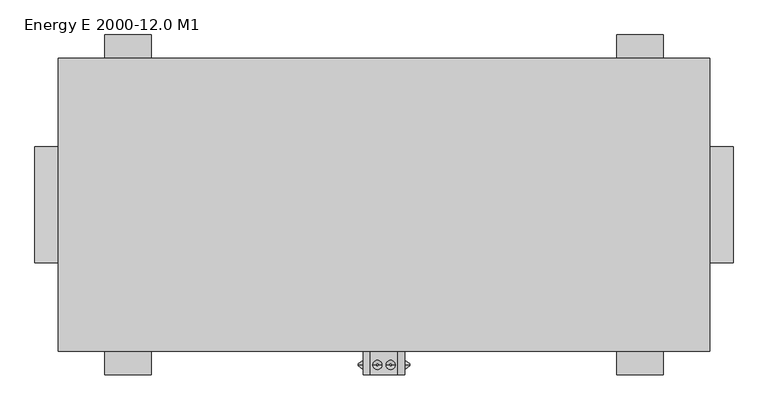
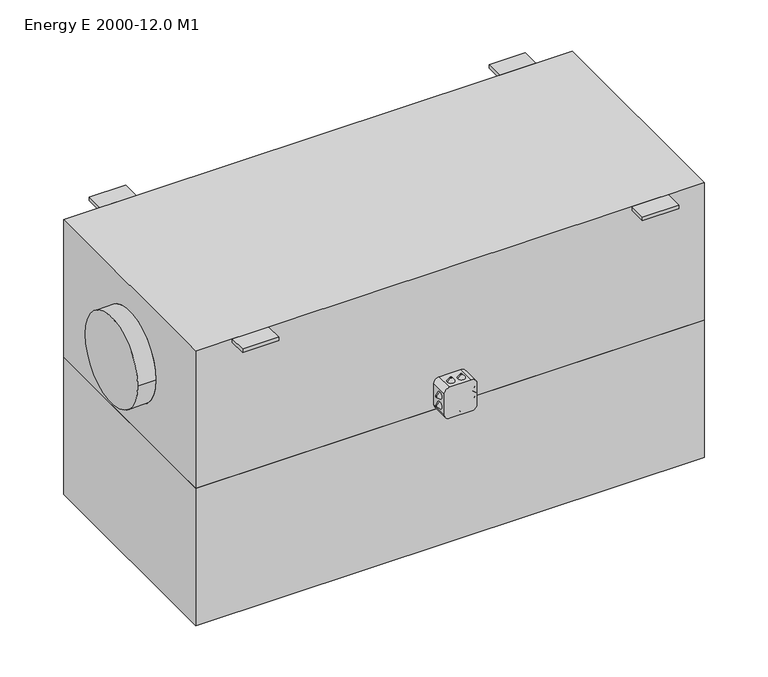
"""IFC4 building model written with IfcOpenShell, lengths in millimetres: proxy geometry, ADSK_КПВУ_ENERGY E_круглая : Energy E 2000-12.0 M1."""

from ifc_helpers import new_model, si_unit, point, frame, frame_2d, origin, place, context, project, spatial, polyline, circle_curve, trimmed, segment, composite_curve, outline, extrude, source, transform, mapped, element, save
from ifc_brep_helpers import plane_surface, cylinder_surface, revolved_surface, advanced_brep


def energy_e_2000_12_0_m1_ab2c2ec1(model_context):
    return source(origin(), model_context, "Body", "SolidModel", [
        advanced_brep(
        [(211.0, -343.9311792, -171.7092609), (211.0, -343.9311792, -167.7092609), (221.0, -343.9311792, -179.7092609), (221.0, -343.9311792, -159.7092609)],
        [
            (0, 1, circle_curve(frame((211.0, -343.9311792, -169.7092609), z_axis=(-1.0, 0.0, 0.0), x_axis=(0.0, 0.0, -1.0)), 2.0)),
            (1, 0, circle_curve(frame((211.0, -343.9311792, -169.7092609), z_axis=(-1.0, 0.0, 0.0), x_axis=(0.0, 0.0, 1.0)), 2.0)),
            (2, 3, circle_curve(frame((221.0, -343.9311792, -169.7092609), z_axis=(1.0, 0.0, 0.0), x_axis=(0.0, 0.0, 1.0)), 10.0)),
            (3, 2, circle_curve(frame((221.0, -343.9311792, -169.7092609), z_axis=(1.0, 0.0, 0.0), x_axis=(0.0, 0.0, -1.0)), 10.0)),
            (2, 0),
            (1, 3),
        ],
        [
            plane_surface(frame((211.0, -343.9311792, -169.7092609), z_axis=(-1.0, 0.0, 0.0), x_axis=(0.0, -1.0, 0.0))),
            plane_surface(frame((221.0, -343.9311792, -169.7092609), z_axis=(1.0, 0.0, 0.0), x_axis=(0.0, -1.0, 0.0))),
            revolved_surface(polyline([(211.0, -343.9311792, -167.7092609), (221.0, -343.9311792, -159.7092609)]), (208.5, -343.9311792, -169.7092609), (1.0, 0.0, 0.0)),
            revolved_surface(polyline([(211.0, -343.9311792, -171.7092609), (221.0, -343.9311792, -179.7092609)]), (208.5, -343.9311792, -169.7092609), (1.0, 0.0, 0.0)),
        ],
        [
            (0, [[1, 2]]),
            (1, [[3, 4]]),
            (2, [[-3, 5, -2, 6]]),
            (3, [[-4, -6, -1, -5]]),
        ],
    ),
        advanced_brep(
        [(211.0, -343.9311792, -139.0531164), (211.0, -343.9311792, -143.0531164), (221.0, -343.9311792, -131.0531164), (221.0, -343.9311792, -151.0531164)],
        [
            (0, 1, circle_curve(frame((211.0, -343.9311792, -141.0531164), z_axis=(-1.0, 0.0, 0.0), x_axis=(0.0, 0.0, 1.0)), 2.0)),
            (1, 0, circle_curve(frame((211.0, -343.9311792, -141.0531164), z_axis=(-1.0, 0.0, 0.0), x_axis=(0.0, 0.0, -1.0)), 2.0)),
            (2, 3, circle_curve(frame((221.0, -343.9311792, -141.0531164), z_axis=(1.0, 0.0, 0.0), x_axis=(0.0, 0.0, -1.0)), 10.0)),
            (3, 2, circle_curve(frame((221.0, -343.9311792, -141.0531164), z_axis=(1.0, 0.0, 0.0), x_axis=(0.0, 0.0, 1.0)), 10.0)),
            (3, 1),
            (0, 2),
        ],
        [
            plane_surface(frame((211.0, -343.9311792, -141.0531164), z_axis=(-1.0, 0.0, 0.0), x_axis=(0.0, 1.0, 0.0))),
            plane_surface(frame((221.0, -343.9311792, -141.0531164), z_axis=(1.0, 0.0, 0.0), x_axis=(0.0, 1.0, 0.0))),
            revolved_surface(polyline([(211.0, -343.9311792, -139.0531164), (221.0, -343.9311792, -131.0531164)]), (208.5, -343.9311792, -141.0531164), (1.0, 0.0, 0.0)),
            revolved_surface(polyline([(211.0, -343.9311792, -143.0531164), (221.0, -343.9311792, -151.0531164)]), (208.5, -343.9311792, -141.0531164), (1.0, 0.0, 0.0)),
        ],
        [
            (0, [[1, 2]]),
            (1, [[3, 4]]),
            (2, [[-4, 5, -1, 6]]),
            (3, [[-3, -6, -2, -5]]),
        ],
    ),
        advanced_brep(
        [(321.0, -343.9311792, -171.7092609), (321.0, -343.9311792, -167.7092609), (311.0, -343.9311792, -179.7092609), (311.0, -343.9311792, -159.7092609)],
        [
            (0, 1, circle_curve(frame((321.0, -343.9311792, -169.7092609), z_axis=(1.0, 0.0, 0.0), x_axis=(0.0, 0.0, -1.0)), 2.0)),
            (1, 0, circle_curve(frame((321.0, -343.9311792, -169.7092609), z_axis=(1.0, 0.0, 0.0), x_axis=(0.0, 0.0, 1.0)), 2.0)),
            (2, 3, circle_curve(frame((311.0, -343.9311792, -169.7092609), z_axis=(-1.0, 0.0, 0.0), x_axis=(0.0, 0.0, 1.0)), 10.0)),
            (3, 2, circle_curve(frame((311.0, -343.9311792, -169.7092609), z_axis=(-1.0, 0.0, 0.0), x_axis=(0.0, 0.0, -1.0)), 10.0)),
            (3, 1),
            (0, 2),
        ],
        [
            plane_surface(frame((321.0, -343.9311792, -169.7092609), z_axis=(1.0, 0.0, 0.0), x_axis=(0.0, 1.0, 0.0))),
            plane_surface(frame((311.0, -343.9311792, -169.7092609), z_axis=(-1.0, 0.0, 0.0), x_axis=(0.0, 1.0, 0.0))),
            revolved_surface(polyline([(321.0, -343.9311792, -171.7092609), (311.0, -343.9311792, -179.7092609)]), (323.5, -343.9311792, -169.7092609), (-1.0, 0.0, 0.0)),
            revolved_surface(polyline([(321.0, -343.9311792, -167.7092609), (311.0, -343.9311792, -159.7092609)]), (323.5, -343.9311792, -169.7092609), (-1.0, 0.0, 0.0)),
        ],
        [
            (0, [[1, 2]]),
            (1, [[3, 4]]),
            (2, [[-4, 5, -1, 6]]),
            (3, [[-3, -6, -2, -5]]),
        ],
    ),
        advanced_brep(
        [(321.0, -343.9311792, -139.0531164), (321.0, -343.9311792, -143.0531164), (311.0, -343.9311792, -131.0531164), (311.0, -343.9311792, -151.0531164)],
        [
            (0, 1, circle_curve(frame((321.0, -343.9311792, -141.0531164), z_axis=(1.0, 0.0, 0.0), x_axis=(0.0, 0.0, 1.0)), 2.0)),
            (1, 0, circle_curve(frame((321.0, -343.9311792, -141.0531164), z_axis=(1.0, 0.0, 0.0), x_axis=(0.0, 0.0, -1.0)), 2.0)),
            (2, 3, circle_curve(frame((311.0, -343.9311792, -141.0531164), z_axis=(-1.0, 0.0, 0.0), x_axis=(0.0, 0.0, -1.0)), 10.0)),
            (3, 2, circle_curve(frame((311.0, -343.9311792, -141.0531164), z_axis=(-1.0, 0.0, 0.0), x_axis=(0.0, 0.0, 1.0)), 10.0)),
            (2, 0),
            (1, 3),
        ],
        [
            plane_surface(frame((321.0, -343.9311792, -141.0531164), z_axis=(1.0, 0.0, 0.0), x_axis=(0.0, -1.0, 0.0))),
            plane_surface(frame((311.0, -343.9311792, -141.0531164), z_axis=(-1.0, 0.0, 0.0), x_axis=(0.0, -1.0, 0.0))),
            revolved_surface(polyline([(321.0, -343.9311792, -143.0531164), (311.0, -343.9311792, -151.0531164)]), (323.5, -343.9311792, -141.0531164), (-1.0, 0.0, 0.0)),
            revolved_surface(polyline([(321.0, -343.9311792, -139.0531164), (311.0, -343.9311792, -131.0531164)]), (323.5, -343.9311792, -141.0531164), (-1.0, 0.0, 0.0)),
        ],
        [
            (0, [[1, 2]]),
            (1, [[3, 4]]),
            (2, [[-3, 5, -2, 6]]),
            (3, [[-4, -6, -1, -5]]),
        ],
    ),
        advanced_brep(
        [(249.6719278, -343.9311792, -210.0), (253.6719278, -343.9311792, -210.0), (241.6719278, -343.9311792, -200.0), (261.6719278, -343.9311792, -200.0)],
        [
            (0, 1, circle_curve(frame((251.6719278, -343.9311792, -210.0), z_axis=(0.0, 0.0, -1.0), x_axis=(-1.0, 0.0, 0.0)), 2.0)),
            (1, 0, circle_curve(frame((251.6719278, -343.9311792, -210.0), z_axis=(0.0, 0.0, -1.0), x_axis=(1.0, 0.0, 0.0)), 2.0)),
            (2, 3, circle_curve(frame((251.6719278, -343.9311792, -200.0), z_axis=(0.0, 0.0, 1.0), x_axis=(1.0, 0.0, 0.0)), 10.0)),
            (3, 2, circle_curve(frame((251.6719278, -343.9311792, -200.0), z_axis=(0.0, 0.0, 1.0), x_axis=(-1.0, 0.0, 0.0)), 10.0)),
            (3, 1),
            (0, 2),
        ],
        [
            plane_surface(frame((251.6719278, -343.9311792, -210.0), z_axis=(0.0, 0.0, -1.0), x_axis=(0.0, 1.0, 0.0))),
            plane_surface(frame((251.6719278, -343.9311792, -200.0), z_axis=(0.0, 0.0, 1.0), x_axis=(0.0, 1.0, 0.0))),
            revolved_surface(polyline([(249.6719278, -343.9311792, -210.0), (241.6719278, -343.9311792, -200.0)]), (251.6719278, -343.9311792, -212.5), (0.0, 0.0, 1.0)),
            revolved_surface(polyline([(253.6719278, -343.9311792, -210.0), (261.6719278, -343.9311792, -200.0)]), (251.6719278, -343.9311792, -212.5), (0.0, 0.0, 1.0)),
        ],
        [
            (0, [[1, 2]]),
            (1, [[3, 4]]),
            (2, [[-4, 5, -1, 6]]),
            (3, [[-3, -6, -2, -5]]),
        ],
    ),
        advanced_brep(
        [(282.3280722, -343.9311792, -210.0), (278.3280722, -343.9311792, -210.0), (290.3280722, -343.9311792, -200.0), (270.3280722, -343.9311792, -200.0)],
        [
            (0, 1, circle_curve(frame((280.3280722, -343.9311792, -210.0), z_axis=(0.0, 0.0, -1.0), x_axis=(1.0, 0.0, 0.0)), 2.0)),
            (1, 0, circle_curve(frame((280.3280722, -343.9311792, -210.0), z_axis=(0.0, 0.0, -1.0), x_axis=(-1.0, 0.0, 0.0)), 2.0)),
            (2, 3, circle_curve(frame((280.3280722, -343.9311792, -200.0), z_axis=(0.0, 0.0, 1.0), x_axis=(-1.0, 0.0, 0.0)), 10.0)),
            (3, 2, circle_curve(frame((280.3280722, -343.9311792, -200.0), z_axis=(0.0, 0.0, 1.0), x_axis=(1.0, 0.0, 0.0)), 10.0)),
            (2, 0),
            (1, 3),
        ],
        [
            plane_surface(frame((280.3280722, -343.9311792, -210.0), z_axis=(0.0, 0.0, -1.0), x_axis=(0.0, -1.0, 0.0))),
            plane_surface(frame((280.3280722, -343.9311792, -200.0), z_axis=(0.0, 0.0, 1.0), x_axis=(0.0, -1.0, 0.0))),
            revolved_surface(polyline([(278.3280722, -343.9311792, -210.0), (270.3280722, -343.9311792, -200.0)]), (280.3280722, -343.9311792, -212.5), (0.0, 0.0, 1.0)),
            revolved_surface(polyline([(282.3280722, -343.9311792, -210.0), (290.3280722, -343.9311792, -200.0)]), (280.3280722, -343.9311792, -212.5), (0.0, 0.0, 1.0)),
        ],
        [
            (0, [[1, 2]]),
            (1, [[3, 4]]),
            (2, [[-3, 5, -2, 6]]),
            (3, [[-4, -6, -1, -5]]),
        ],
    ),
        advanced_brep(
        [(249.6719278, -343.9311792, -100.0), (253.6719278, -343.9311792, -100.0), (241.6719278, -343.9311792, -110.0), (261.6719278, -343.9311792, -110.0)],
        [
            (0, 1, circle_curve(frame((251.6719278, -343.9311792, -100.0), z_axis=(0.0, 0.0, 1.0), x_axis=(-1.0, 0.0, 0.0)), 2.0)),
            (1, 0, circle_curve(frame((251.6719278, -343.9311792, -100.0), z_axis=(0.0, 0.0, 1.0), x_axis=(1.0, 0.0, 0.0)), 2.0)),
            (2, 3, circle_curve(frame((251.6719278, -343.9311792, -110.0), z_axis=(0.0, 0.0, -1.0), x_axis=(1.0, 0.0, 0.0)), 10.0)),
            (3, 2, circle_curve(frame((251.6719278, -343.9311792, -110.0), z_axis=(0.0, 0.0, -1.0), x_axis=(-1.0, 0.0, 0.0)), 10.0)),
            (2, 0),
            (1, 3),
        ],
        [
            plane_surface(frame((251.6719278, -343.9311792, -100.0), z_axis=(0.0, 0.0, 1.0), x_axis=(0.0, -1.0, 0.0))),
            plane_surface(frame((251.6719278, -343.9311792, -110.0), z_axis=(0.0, 0.0, -1.0), x_axis=(0.0, -1.0, 0.0))),
            revolved_surface(polyline([(253.6719278, -343.9311792, -100.0), (261.6719278, -343.9311792, -110.0)]), (251.6719278, -343.9311792, -97.5), (0.0, 0.0, -1.0)),
            revolved_surface(polyline([(249.6719278, -343.9311792, -100.0), (241.6719278, -343.9311792, -110.0)]), (251.6719278, -343.9311792, -97.5), (0.0, 0.0, -1.0)),
        ],
        [
            (0, [[1, 2]]),
            (1, [[3, 4]]),
            (2, [[-3, 5, -2, 6]]),
            (3, [[-4, -6, -1, -5]]),
        ],
    ),
        advanced_brep(
        [(282.3280722, -343.9311792, -100.0), (278.3280722, -343.9311792, -100.0), (290.3280722, -343.9311792, -110.0), (270.3280722, -343.9311792, -110.0)],
        [
            (0, 1, circle_curve(frame((280.3280722, -343.9311792, -100.0), z_axis=(0.0, 0.0, 1.0), x_axis=(1.0, 0.0, 0.0)), 2.0)),
            (1, 0, circle_curve(frame((280.3280722, -343.9311792, -100.0), z_axis=(0.0, 0.0, 1.0), x_axis=(-1.0, 0.0, 0.0)), 2.0)),
            (2, 3, circle_curve(frame((280.3280722, -343.9311792, -110.0), z_axis=(0.0, 0.0, -1.0), x_axis=(-1.0, 0.0, 0.0)), 10.0)),
            (3, 2, circle_curve(frame((280.3280722, -343.9311792, -110.0), z_axis=(0.0, 0.0, -1.0), x_axis=(1.0, 0.0, 0.0)), 10.0)),
            (3, 1),
            (0, 2),
        ],
        [
            plane_surface(frame((280.3280722, -343.9311792, -100.0), z_axis=(0.0, 0.0, 1.0), x_axis=(0.0, 1.0, 0.0))),
            plane_surface(frame((280.3280722, -343.9311792, -110.0), z_axis=(0.0, 0.0, -1.0), x_axis=(0.0, 1.0, 0.0))),
            revolved_surface(polyline([(282.3280722, -343.9311792, -100.0), (290.3280722, -343.9311792, -110.0)]), (280.3280722, -343.9311792, -97.5), (0.0, 0.0, -1.0)),
            revolved_surface(polyline([(278.3280722, -343.9311792, -100.0), (270.3280722, -343.9311792, -110.0)]), (280.3280722, -343.9311792, -97.5), (0.0, 0.0, -1.0)),
        ],
        [
            (0, [[1, 2]]),
            (1, [[3, 4]]),
            (2, [[-4, 5, -1, 6]]),
            (3, [[-3, -6, -2, -5]]),
        ],
    ),
        extrude(outline(composite_curve([segment(polyline([(-200.0, 236.0), (-200.0, 296.0)]), True, "CONTINUOUS"), segment(trimmed(circle_curve(frame_2d((-185.0, 296.0)), 15.0), [point((-200.0, 296.0))], [point((-185.0, 311.0))], False, "CARTESIAN"), True, "CONTINUOUS"), segment(polyline([(-185.0, 311.0), (-125.0, 311.0)]), True, "CONTINUOUS"), segment(trimmed(circle_curve(frame_2d((-125.0, 296.0)), 15.0), [point((-125.0, 311.0))], [point((-110.0, 296.0))], False, "CARTESIAN"), True, "CONTINUOUS"), segment(polyline([(-110.0, 296.0), (-110.0, 236.0)]), True, "CONTINUOUS"), segment(trimmed(circle_curve(frame_2d((-125.0, 236.0)), 15.0), [point((-110.0, 236.0))], [point((-125.0, 221.0))], False, "CARTESIAN"), True, "CONTINUOUS"), segment(polyline([(-125.0, 221.0), (-185.0, 221.0)]), True, "CONTINUOUS"), segment(trimmed(circle_curve(frame_2d((-185.0, 236.0)), 15.0), [point((-185.0, 221.0))], [point((-200.0, 236.0))], False, "CARTESIAN"), True, "CONTINUOUS")], self_intersect=False)), frame((0.0, -365.0, 0.0), z_axis=(0.0, 1.0, 0.0), x_axis=(0.0, 0.0, 1.0)), (0.0, 0.0, 1.0), 50.0),
        advanced_brep(
        [(966.0, -315.0, 200.0), (966.0, -315.0, -200.0), (966.0, 315.0, -200.0), (966.0, 315.0, 200.0), (966.0, 125.0, 0.0), (966.0, -125.0, 0.0), (-434.0, -315.0, 200.0), (-434.0, 315.0, 200.0), (-434.0, 315.0, -200.0), (-434.0, -315.0, -200.0), (-434.0, 125.0, 0.0), (-434.0, -125.0, 0.0), (-484.0, -125.0, 0.0), (-484.0, 125.0, 0.0), (1016.0, -125.0, 0.0), (1016.0, 125.0, 0.0)],
        [
            (0, 1),
            (1, 2),
            (2, 3),
            (3, 0),
            (4, 5, circle_curve(frame((966.0, 0.0, 0.0), z_axis=(-1.0, 0.0, 0.0), x_axis=(0.0, 1.0, 0.0)), 125.0)),
            (5, 4, circle_curve(frame((966.0, 0.0, 0.0), z_axis=(-1.0, 0.0, 0.0), x_axis=(0.0, 1.0, 0.0)), 125.0)),
            (6, 7),
            (7, 8),
            (8, 9),
            (9, 6),
            (10, 11, circle_curve(frame((-434.0, 0.0, 0.0), z_axis=(1.0, 0.0, 0.0), x_axis=(0.0, 1.0, 0.0)), 125.0)),
            (11, 10, circle_curve(frame((-434.0, 0.0, 0.0), z_axis=(1.0, 0.0, 0.0), x_axis=(0.0, 1.0, 0.0)), 125.0)),
            (12, 13, circle_curve(frame((-484.0, 0.0, 0.0), z_axis=(-1.0, 0.0, 0.0), x_axis=(0.0, 1.0, 0.0)), 125.0)),
            (13, 12, circle_curve(frame((-484.0, 0.0, 0.0), z_axis=(-1.0, 0.0, 0.0), x_axis=(0.0, 1.0, 0.0)), 125.0)),
            (0, 6),
            (9, 1),
            (8, 2),
            (7, 3),
            (12, 11),
            (10, 13),
            (14, 15, circle_curve(frame((1016.0, 0.0, 0.0), z_axis=(1.0, 0.0, 0.0), x_axis=(0.0, 1.0, 0.0)), 125.0)),
            (15, 14, circle_curve(frame((1016.0, 0.0, 0.0), z_axis=(1.0, 0.0, 0.0), x_axis=(0.0, 1.0, 0.0)), 125.0)),
            (14, 5),
            (4, 15),
        ],
        [
            plane_surface(frame((966.0, -315.0, 200.0), z_axis=(1.0, 0.0, 0.0), x_axis=(0.0, 0.0, -1.0))),
            plane_surface(frame((-434.0, -315.0, 200.0), z_axis=(-1.0, 0.0, 0.0), x_axis=(0.0, 0.0, 1.0))),
            plane_surface(frame((-484.0, 125.0, 0.0), z_axis=(-1.0, 0.0, 0.0), x_axis=(0.0, 0.0, -1.0))),
            plane_surface(frame((966.0, -315.0, 200.0), z_axis=(0.0, -1.0, 0.0), x_axis=(-1.0, 0.0, 0.0))),
            plane_surface(frame((966.0, -315.0, -200.0), z_axis=(0.0, 0.0, -1.0), x_axis=(-1.0, 0.0, 0.0))),
            plane_surface(frame((966.0, 315.0, -200.0), z_axis=(0.0, 1.0, 0.0), x_axis=(-1.0, 0.0, 0.0))),
            plane_surface(frame((966.0, 315.0, 200.0), z_axis=(0.0, 0.0, 1.0), x_axis=(-1.0, 0.0, 0.0))),
            cylinder_surface(frame((-484.0, 0.0, 0.0), z_axis=(1.0, 0.0, 0.0), x_axis=(0.0, 1.0, 0.0)), 125.0),
            plane_surface(frame((1016.0, 125.0, 0.0), z_axis=(1.0, 0.0, 0.0), x_axis=(0.0, 0.0, 1.0))),
            cylinder_surface(frame((966.0, 0.0, 0.0), z_axis=(1.0, 0.0, 0.0), x_axis=(0.0, 1.0, 0.0)), 125.0),
        ],
        [
            (0, [[1, 2, 3, 4], [5, 6]]),
            (1, [[7, 8, 9, 10], [11, 12]]),
            (2, [[13, 14]]),
            (3, [[-1, 15, -10, 16]]),
            (4, [[-2, -16, -9, 17]]),
            (5, [[-3, -17, -8, 18]]),
            (6, [[-4, -18, -7, -15]]),
            (7, [[-13, 19, -11, 20]]),
            (7, [[-14, -20, -12, -19]]),
            (8, [[21, 22]]),
            (9, [[-21, 23, -5, 24]]),
            (9, [[-22, -24, -6, -23]]),
        ],
    ),
        extrude(outline(polyline([(-234.0, 365.0), (-234.0, 315.0), (-334.0, 315.0), (-334.0, 365.0), (-234.0, 365.0)])), frame((0.0, 0.0, 190.0), z_axis=(0.0, 0.0, 1.0), x_axis=(1.0, 0.0, 0.0)), (0.0, 0.0, 1.0), 10.0),
        extrude(outline(polyline([(766.0, 365.0), (866.0, 365.0), (866.0, 315.0), (766.0, 315.0), (766.0, 365.0)])), frame((0.0, 0.0, 190.0), z_axis=(0.0, 0.0, 1.0), x_axis=(1.0, 0.0, 0.0)), (0.0, 0.0, 1.0), 10.0),
        extrude(outline(polyline([(-234.0, -365.0), (-334.0, -365.0), (-334.0, -315.0), (-234.0, -315.0), (-234.0, -365.0)])), frame((0.0, 0.0, 190.0), z_axis=(0.0, 0.0, 1.0), x_axis=(1.0, 0.0, 0.0)), (0.0, 0.0, 1.0), 10.0),
        extrude(outline(polyline([(766.0, -365.0), (766.0, -315.0), (866.0, -315.0), (866.0, -365.0), (766.0, -365.0)])), frame((0.0, 0.0, 190.0), z_axis=(0.0, 0.0, 1.0), x_axis=(1.0, 0.0, 0.0)), (0.0, 0.0, 1.0), 10.0),
        extrude(outline(polyline([(966.0, 315.0), (966.0, -315.0), (-434.0, -315.0), (-434.0, 315.0), (966.0, 315.0)])), frame((0.0, 0.0, -600.0), z_axis=(0.0, 0.0, 1.0), x_axis=(1.0, 0.0, 0.0)), (0.0, 0.0, 1.0), 400.0),
    ])


if __name__ == "__main__":
    model = new_model("IFC4")
    model_context = context("Model", 3, world=origin())
    ifc_project = project(units=[si_unit("LENGTHUNIT", "METRE", prefix="MILLI")], contexts=[model_context])
    site = spatial("IfcSite", under=ifc_project)
    building = spatial("IfcBuilding", under=site)
    placement = place(None, origin())
    energy_e_2000_12_0_m1_shape = energy_e_2000_12_0_m1_ab2c2ec1(model_context)
    element("IfcBuildingElementProxy", 1, Name="ADSK_КПВУ_ENERGY E_круглая : Energy E 2000-12.0 M1", ObjectType="ADSK_КПВУ_ENERGY E_круглая : Energy E 2000-12.0 M1", at=placement, inside=building, context=model_context, shape_type="MappedRepresentation", body=[
        mapped(energy_e_2000_12_0_m1_shape, transform((0.0, 0.0, 0.0), x_axis=(1.0, 0.0, 0.0), y_axis=(0.0, 1.0, 0.0), z_axis=(0.0, 0.0, 1.0))),
    ])
    save(model, "model.ifc")
